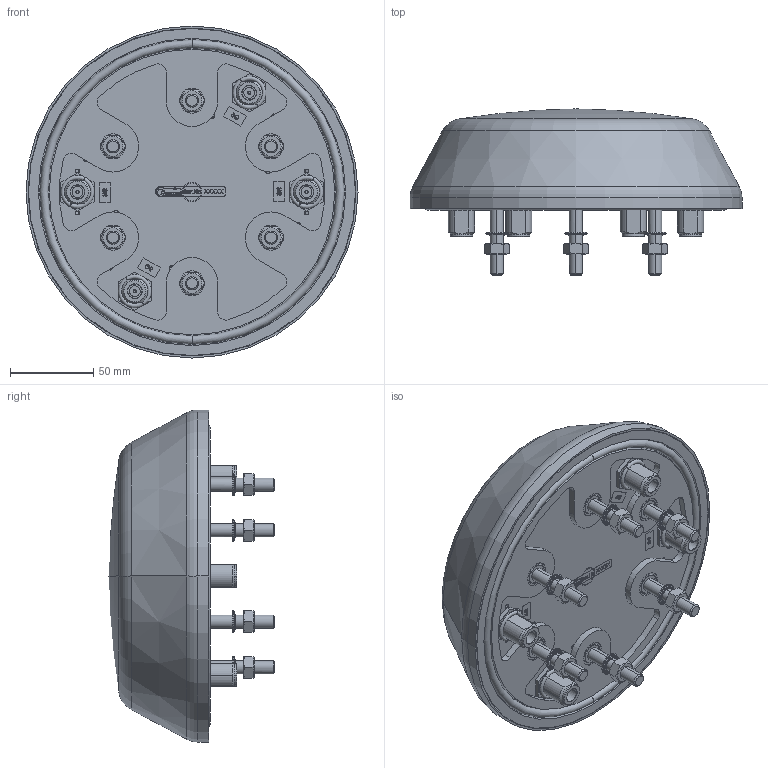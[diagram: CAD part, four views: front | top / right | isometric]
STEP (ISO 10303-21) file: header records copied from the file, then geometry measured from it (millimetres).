
FILE_DESCRIPTION (( 'STEP AP214' ), '1' );
FILE_NAME ('100-58-10-05.50 3D-Modell Kunde.STEP', '2019-05-20T08:10:14', ( '' ), ( '' ), 'SwSTEP 2.0', 'SolidWorks 2015', '' );
FILE_SCHEMA (( 'AUTOMOTIVE_DESIGN' ));
Length unit declared in the file: millimetre
Products named in the file (15): ETK-ASN neu; 100-58-10-05.50 3D-Modell Kunde; DT-12.004; S050817-Mutter; S050817; DI-14.22 O-Ring rot flach; DI-200.007; SCH-Schnorr-084-03; ETK-5G; GP-200.444(a); M-0934-M8-03; M-0439-M8-03; GEH-200.001; SR-0603-080-050-03; DI-200.007-ORing
Assembly tree (46 placements, depth 2):
  100-58-10-05.50 3D-Modell Kunde
    GP-200.444(a)
    DI-200.007
    DI-200.007-ORing
    GEH-200.001
    S050817  x4
    SR-0603-080-050-03  x6
    M-0934-M8-03  x6
    M-0439-M8-03  x6
    SCH-Schnorr-084-03  x6
    ETK-ASN neu
    S050817-Mutter  x4
    DI-14.22 O-Ring rot flach  x4
    DT-12.004
    ETK-5G  x4
Bounding box: 200 x 100 x 200 mm (x, y, z)
Volume: 468213.8 mm3; surface area: 265342.1 mm2
Topology: 46 solids, 46 shells, 3336 faces, 9198 edges, 6024 vertices
Faces by surface type: plane 2435, cylinder 387, cone 238, bspline 162, torus 114
Entity records: 43538 total; most frequent: CARTESIAN_POINT 12538, ORIENTED_EDGE 5910, DIRECTION 5128, EDGE_CURVE 2955, VERTEX_POINT 1940, AXIS2_PLACEMENT_3D 1770, LINE 1588, VECTOR 1588
